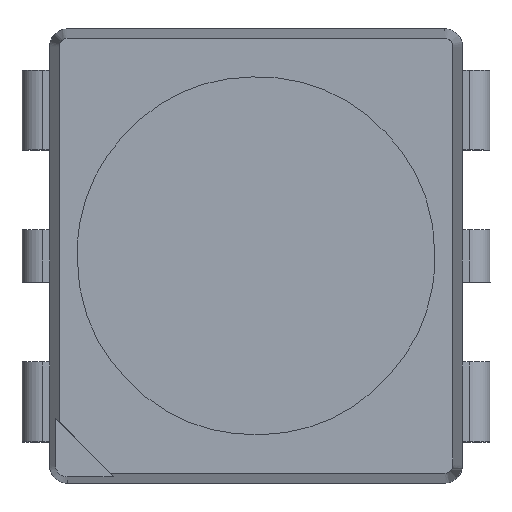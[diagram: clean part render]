
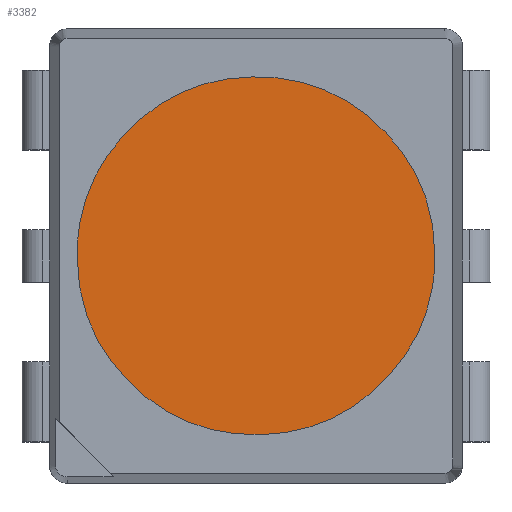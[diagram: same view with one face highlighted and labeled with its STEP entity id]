
A CAD part, top view. The second image highlights one B-rep face of the part: STEP entity #3382.
In plain terms, the highlighted planar face has unit normal (0, 0, 1).
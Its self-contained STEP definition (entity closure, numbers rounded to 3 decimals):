
#194 = ORIENTED_EDGE ( 'NONE', *, *, #316, .T. ) ;
#237 = CARTESIAN_POINT ( 'NONE',  ( 0., -1.3, 0. ) ) ;
#316 = EDGE_CURVE ( 'NONE', #1391, #1640, #5026, .T. ) ;
#341 = CARTESIAN_POINT ( 'NONE',  ( -1.173, 0.665, 0. ) ) ;
#714 = CARTESIAN_POINT ( 'NONE',  ( -0.665, 1.174, 0. ) ) ;
#862 = CARTESIAN_POINT ( 'NONE',  ( 1.3, -0.36, 0. ) ) ;
#1283 = AXIS2_PLACEMENT_3D ( 'NONE', #4153, #5401, #4046 ) ;
#1391 = VERTEX_POINT ( 'NONE', #2422 ) ;
#1443 = FACE_OUTER_BOUND ( 'NONE', #2662, .T. ) ;
#1640 = VERTEX_POINT ( 'NONE', #3655 ) ;
#1788 = CARTESIAN_POINT ( 'NONE',  ( 1.173, -0.665, 0. ) ) ;
#1958 = PLANE ( 'NONE',  #1283 ) ;
#1973 = CARTESIAN_POINT ( 'NONE',  ( -0.359, 1.3, 0. ) ) ;
#2000 = CARTESIAN_POINT ( 'NONE',  ( -1.174, -0.665, 0. ) ) ;
#2396 = EDGE_CURVE ( 'NONE', #1640, #1391, #4798, .T. ) ;
#2422 = CARTESIAN_POINT ( 'NONE',  ( 0., -1.3, 0. ) ) ;
#2581 = CARTESIAN_POINT ( 'NONE',  ( 0.358, 1.3, 0. ) ) ;
#2662 = EDGE_LOOP ( 'NONE', ( #3699, #194 ) ) ;
#2979 = CARTESIAN_POINT ( 'NONE',  ( 1.174, 0.665, 0. ) ) ;
#3382 = ADVANCED_FACE ( 'NONE', ( #1443 ), #1958, .F. ) ;
#3456 = CARTESIAN_POINT ( 'NONE',  ( 0., 1.3, 0. ) ) ;
#3483 = CARTESIAN_POINT ( 'NONE',  ( 0.665, 1.173, 0. ) ) ;
#3655 = CARTESIAN_POINT ( 'NONE',  ( 0., 1.3, 0. ) ) ;
#3699 = ORIENTED_EDGE ( 'NONE', *, *, #2396, .T. ) ;
#3736 = CARTESIAN_POINT ( 'NONE',  ( -0.665, -1.173, 0. ) ) ;
#3882 = CARTESIAN_POINT ( 'NONE',  ( 0., -1.3, 0. ) ) ;
#4046 = DIRECTION ( 'NONE',  ( 0., 1., 0. ) ) ;
#4153 = CARTESIAN_POINT ( 'NONE',  ( 0., 0., 0. ) ) ;
#4170 = CARTESIAN_POINT ( 'NONE',  ( -1.3, -0.36, 0. ) ) ;
#4197 = CARTESIAN_POINT ( 'NONE',  ( -0.36, -1.3, 0. ) ) ;
#4278 = CARTESIAN_POINT ( 'NONE',  ( 0.665, -1.174, 0. ) ) ;
#4677 = CARTESIAN_POINT ( 'NONE',  ( 0., 1.3, 0. ) ) ;
#4721 = CARTESIAN_POINT ( 'NONE',  ( 1.3, 0.36, 0. ) ) ;
#4743 = CARTESIAN_POINT ( 'NONE',  ( 0.36, -1.3, 0. ) ) ;
#4798 = B_SPLINE_CURVE_WITH_KNOTS ( 'NONE', 3,
 ( #4677, #1973, #714, #341, #5573, #4170, #2000, #3736, #4197, #237 ),
 .UNSPECIFIED., .F., .F.,
 ( 4, 2, 2, 2, 4 ),
 ( 0., 0.125, 0.25, 0.375, 0.5 ),
 .UNSPECIFIED. ) ;
#5026 = B_SPLINE_CURVE_WITH_KNOTS ( 'NONE', 3,
 ( #3882, #4743, #4278, #1788, #862, #4721, #2979, #3483, #2581, #3456 ),
 .UNSPECIFIED., .F., .F.,
 ( 4, 2, 2, 2, 4 ),
 ( 0.5, 0.625, 0.75, 0.875, 1. ),
 .UNSPECIFIED. ) ;
#5401 = DIRECTION ( 'NONE',  ( 0., 0., -1. ) ) ;
#5573 = CARTESIAN_POINT ( 'NONE',  ( -1.3, 0.36, 0. ) ) ;
